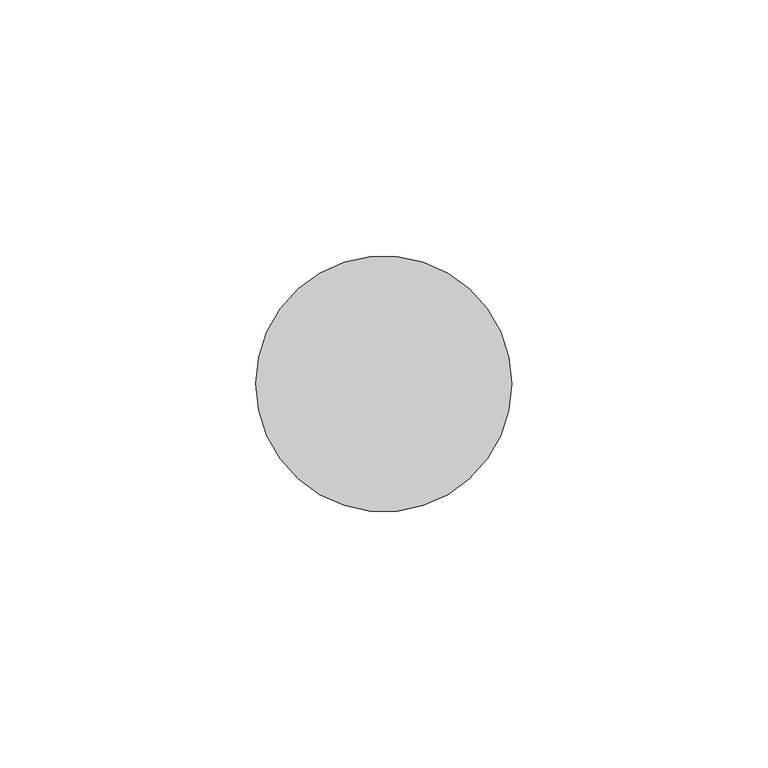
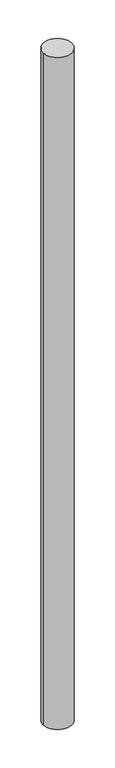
"""IFC4 building model written with IfcOpenShell, lengths in millimetres: member geometry, 圓形豎框 : 25mm 半徑."""

from ifc_helpers import new_model, si_unit, point, frame, origin, origin_2d, place, context, project, spatial, circle_curve, trimmed, segment, composite_curve, outline, extrude, source, transform, mapped, element, save


def member_22fd59af(model_context):
    return source(origin(), model_context, "Body", "SweptSolid", [
        extrude(outline(composite_curve([segment(trimmed(circle_curve(origin_2d(), 25.0), [point((25.0, 0.0))], [point((-25.0, 0.0))], False, "CARTESIAN"), True, "CONTINUOUS"), segment(trimmed(circle_curve(origin_2d(), 25.0), [point((-25.0, 0.0))], [point((25.0, 0.0))], False, "CARTESIAN"), True, "CONTINUOUS")], self_intersect=False)), frame((0.0, 0.0, -1228.8934514), z_axis=(0.0, 0.0, 1.0), x_axis=(1.0, 0.0, 0.0)), (0.0, 0.0, 1.0), 1228.8934514),
    ])


if __name__ == "__main__":
    model = new_model("IFC4")
    model_context = context("Model", 3, world=origin())
    ifc_project = project(units=[si_unit("LENGTHUNIT", "METRE", prefix="MILLI")], contexts=[model_context])
    site = spatial("IfcSite", under=ifc_project)
    building = spatial("IfcBuilding", under=site)
    placement = place(None, origin())
    member_shape = member_22fd59af(model_context)
    element("IfcMember", 1, ObjectType="圓形豎框 : 25mm 半徑", at=placement, inside=building, context=model_context, shape_type="MappedRepresentation", body=[
        mapped(member_shape, transform((0.0, 0.0, 0.0), x_axis=(1.0, 0.0, 0.0), y_axis=(0.0, 1.0, 0.0), z_axis=(0.0, 0.0, 1.0))),
    ])
    save(model, "model.ifc")
